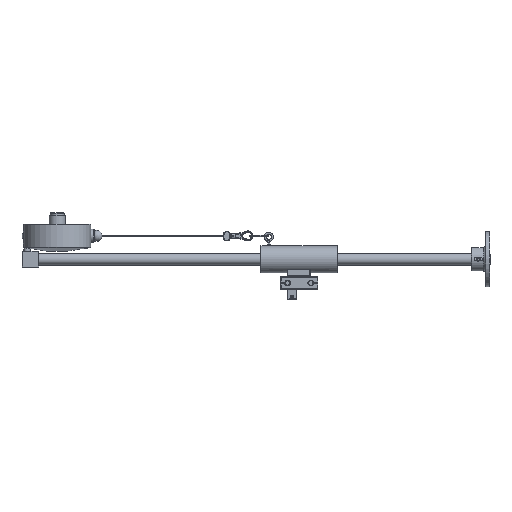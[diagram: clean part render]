
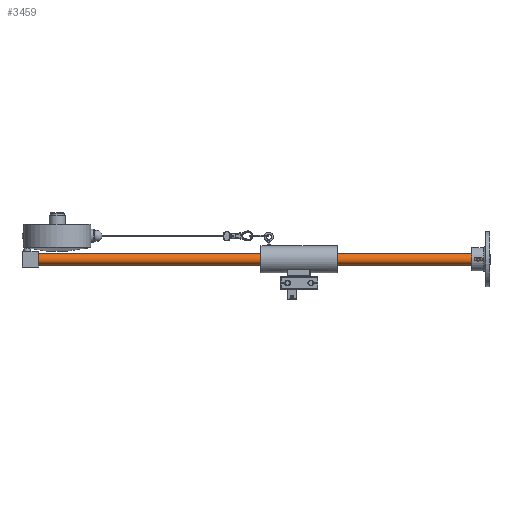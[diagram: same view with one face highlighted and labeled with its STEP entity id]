
A CAD part, left-side view. The second image highlights one B-rep face of the part: STEP entity #3459.
In plain terms, the highlighted cylindrical face has radius 12.5 mm (diameter 25 mm), a full revolution.
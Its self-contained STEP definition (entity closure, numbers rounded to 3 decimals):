
#3459 = ADVANCED_FACE( '', ( #6890, #6891 ), #6892, .T. );
#6890 = FACE_OUTER_BOUND( '', #10948, .T. );
#6891 = FACE_OUTER_BOUND( '', #10949, .T. );
#6892 = CYLINDRICAL_SURFACE( '', #10950, 12.5 );
#10948 = EDGE_LOOP( '', ( #17222 ) );
#10949 = EDGE_LOOP( '', ( #17223 ) );
#10950 = AXIS2_PLACEMENT_3D( '', #17224, #17225, #17226 );
#17222 = ORIENTED_EDGE( '', *, *, #21763, .T. );
#17223 = ORIENTED_EDGE( '', *, *, #20973, .T. );
#17224 = CARTESIAN_POINT( '', ( -20.166, 15.483, 1000. ) );
#17225 = DIRECTION( '', ( 0., 0., 1. ) );
#17226 = DIRECTION( '', ( -1., 0., 0. ) );
#20973 = EDGE_CURVE( '', #24434, #24434, #24435, .T. );
#21763 = EDGE_CURVE( '', #25619, #25619, #25620, .F. );
#24434 = VERTEX_POINT( '', #30078 );
#24435 = CIRCLE( '', #30079, 12.5 );
#25619 = VERTEX_POINT( '', #31687 );
#25620 = CIRCLE( '', #31688, 12.5 );
#30078 = CARTESIAN_POINT( '', ( -32.666, 15.483, 999. ) );
#30079 = AXIS2_PLACEMENT_3D( '', #35240, #35241, #35242 );
#31687 = CARTESIAN_POINT( '', ( -32.666, 15.483, 1. ) );
#31688 = AXIS2_PLACEMENT_3D( '', #36285, #36286, #36287 );
#35240 = CARTESIAN_POINT( '', ( -20.166, 15.483, 999. ) );
#35241 = DIRECTION( '', ( 0., 0., -1. ) );
#35242 = DIRECTION( '', ( -1., 0., 0. ) );
#36285 = CARTESIAN_POINT( '', ( -20.166, 15.483, 1. ) );
#36286 = DIRECTION( '', ( 0., 0., -1. ) );
#36287 = DIRECTION( '', ( -1., 0., 0. ) );
